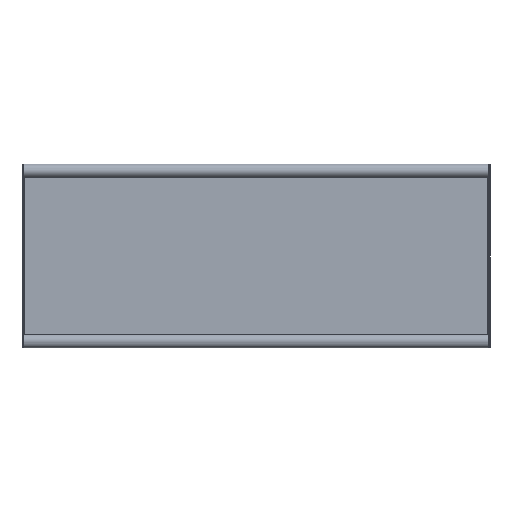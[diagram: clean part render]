
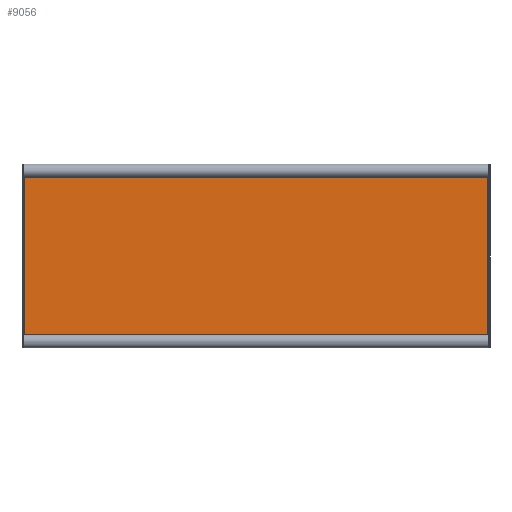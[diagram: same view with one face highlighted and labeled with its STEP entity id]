
A CAD part, front view. The second image highlights one B-rep face of the part: STEP entity #9056.
In plain terms, the highlighted planar face has unit normal (0, -1, 0).
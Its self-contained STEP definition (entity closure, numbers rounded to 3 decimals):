
#84 = DIRECTION ( 'NONE',  ( 0., 0., 1. ) ) ;
#274 = CARTESIAN_POINT ( 'NONE',  ( 346., -2., -136.5 ) ) ;
#600 = CARTESIAN_POINT ( 'NONE',  ( -345., -2., 133.5 ) ) ;
#648 = CARTESIAN_POINT ( 'NONE',  ( 349., -2., 136.5 ) ) ;
#979 = DIRECTION ( 'NONE',  ( 0., -1., 0. ) ) ;
#1442 = CARTESIAN_POINT ( 'NONE',  ( -345., -2., -133.5 ) ) ;
#1568 = CARTESIAN_POINT ( 'NONE',  ( -346., -2., -136.5 ) ) ;
#1628 = CARTESIAN_POINT ( 'NONE',  ( -349., -2., -133.5 ) ) ;
#1688 = VECTOR ( 'NONE', #4611, 1000. ) ;
#1691 = FACE_OUTER_BOUND ( 'NONE', #8784, .T. ) ;
#1741 = CARTESIAN_POINT ( 'NONE',  ( -349., -2., -136.5 ) ) ;
#1767 = VERTEX_POINT ( 'NONE', #3454 ) ;
#1813 = DIRECTION ( 'NONE',  ( 0., 0., 1. ) ) ;
#2063 = CARTESIAN_POINT ( 'NONE',  ( -349., -2., 133.5 ) ) ;
#2254 = LINE ( 'NONE', #2063, #6634 ) ;
#2377 = CARTESIAN_POINT ( 'NONE',  ( 346., -2., 132.5 ) ) ;
#2382 = DIRECTION ( 'NONE',  ( 0., 0., 1. ) ) ;
#3115 = LINE ( 'NONE', #1568, #1688 ) ;
#3198 = DIRECTION ( 'NONE',  ( 0., 1., 0. ) ) ;
#3234 = VERTEX_POINT ( 'NONE', #6880 ) ;
#3298 = EDGE_CURVE ( 'NONE', #6532, #9898, #9498, .T. ) ;
#3339 = DIRECTION ( 'NONE',  ( 0., -1., 0. ) ) ;
#3454 = CARTESIAN_POINT ( 'NONE',  ( 345., -2., -133.5 ) ) ;
#3502 = ORIENTED_EDGE ( 'NONE', *, *, #5003, .F. ) ;
#3557 = EDGE_CURVE ( 'NONE', #4677, #8951, #9678, .T. ) ;
#3742 = AXIS2_PLACEMENT_3D ( 'NONE', #6166, #6212, #4775 ) ;
#4308 = ORIENTED_EDGE ( 'NONE', *, *, #8625, .F. ) ;
#4410 = DIRECTION ( 'NONE',  ( 1., 0., 0. ) ) ;
#4611 = DIRECTION ( 'NONE',  ( 0., 0., 1. ) ) ;
#4677 = VERTEX_POINT ( 'NONE', #5503 ) ;
#4692 = PLANE ( 'NONE',  #8103 ) ;
#4743 = ORIENTED_EDGE ( 'NONE', *, *, #7698, .F. ) ;
#4775 = DIRECTION ( 'NONE',  ( 0., 0., 1. ) ) ;
#4780 = CARTESIAN_POINT ( 'NONE',  ( -349., -2., -136.5 ) ) ;
#5003 = EDGE_CURVE ( 'NONE', #6532, #1767, #7757, .T. ) ;
#5316 = EDGE_CURVE ( 'NONE', #8951, #5957, #2254, .T. ) ;
#5503 = CARTESIAN_POINT ( 'NONE',  ( -346., -2., 132.5 ) ) ;
#5537 = AXIS2_PLACEMENT_3D ( 'NONE', #4780, #979, #1813 ) ;
#5880 = ORIENTED_EDGE ( 'NONE', *, *, #6227, .F. ) ;
#5957 = VERTEX_POINT ( 'NONE', #9140 ) ;
#6004 = VECTOR ( 'NONE', #8497, 1000. ) ;
#6166 = CARTESIAN_POINT ( 'NONE',  ( -349., -2., 136.5 ) ) ;
#6187 = CARTESIAN_POINT ( 'NONE',  ( 346., -2., -132.5 ) ) ;
#6212 = DIRECTION ( 'NONE',  ( 0., -1., 0. ) ) ;
#6227 = EDGE_CURVE ( 'NONE', #3234, #4677, #3115, .T. ) ;
#6414 = VERTEX_POINT ( 'NONE', #1442 ) ;
#6492 = ORIENTED_EDGE ( 'NONE', *, *, #6728, .T. ) ;
#6532 = VERTEX_POINT ( 'NONE', #6187 ) ;
#6634 = VECTOR ( 'NONE', #4410, 1000. ) ;
#6728 = EDGE_CURVE ( 'NONE', #6414, #1767, #9294, .T. ) ;
#6803 = DIRECTION ( 'NONE',  ( 0., 0., 1. ) ) ;
#6880 = CARTESIAN_POINT ( 'NONE',  ( -346., -2., -132.5 ) ) ;
#7467 = CIRCLE ( 'NONE', #5537, 5. ) ;
#7698 = EDGE_CURVE ( 'NONE', #6414, #3234, #7467, .T. ) ;
#7757 = CIRCLE ( 'NONE', #9853, 5. ) ;
#7975 = ORIENTED_EDGE ( 'NONE', *, *, #5316, .F. ) ;
#8103 = AXIS2_PLACEMENT_3D ( 'NONE', #1741, #3198, #84 ) ;
#8173 = ORIENTED_EDGE ( 'NONE', *, *, #3298, .T. ) ;
#8263 = AXIS2_PLACEMENT_3D ( 'NONE', #648, #8325, #6803 ) ;
#8325 = DIRECTION ( 'NONE',  ( 0., -1., 0. ) ) ;
#8497 = DIRECTION ( 'NONE',  ( 1., 0., 0. ) ) ;
#8546 = VECTOR ( 'NONE', #8687, 1000. ) ;
#8625 = EDGE_CURVE ( 'NONE', #5957, #9898, #8906, .T. ) ;
#8687 = DIRECTION ( 'NONE',  ( 0., 0., 1. ) ) ;
#8784 = EDGE_LOOP ( 'NONE', ( #3502, #8173, #4308, #7975, #9046, #5880, #4743, #6492 ) ) ;
#8906 = CIRCLE ( 'NONE', #8263, 5. ) ;
#8951 = VERTEX_POINT ( 'NONE', #600 ) ;
#9046 = ORIENTED_EDGE ( 'NONE', *, *, #3557, .F. ) ;
#9056 = ADVANCED_FACE ( 'NONE', ( #1691 ), #4692, .F. ) ;
#9140 = CARTESIAN_POINT ( 'NONE',  ( 345., -2., 133.5 ) ) ;
#9294 = LINE ( 'NONE', #1628, #6004 ) ;
#9403 = CARTESIAN_POINT ( 'NONE',  ( 349., -2., -136.5 ) ) ;
#9498 = LINE ( 'NONE', #274, #8546 ) ;
#9678 = CIRCLE ( 'NONE', #3742, 5. ) ;
#9853 = AXIS2_PLACEMENT_3D ( 'NONE', #9403, #3339, #2382 ) ;
#9898 = VERTEX_POINT ( 'NONE', #2377 ) ;
